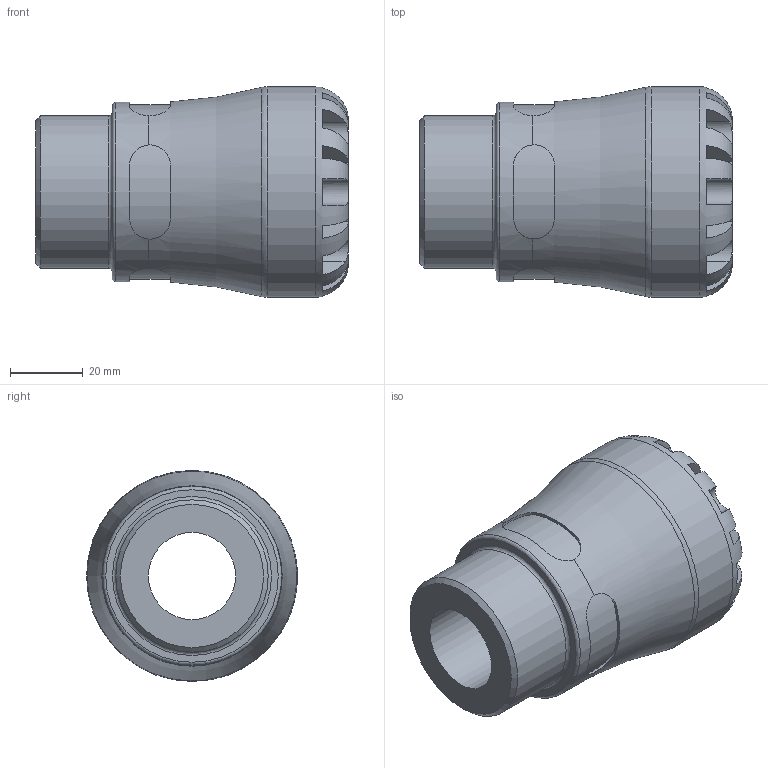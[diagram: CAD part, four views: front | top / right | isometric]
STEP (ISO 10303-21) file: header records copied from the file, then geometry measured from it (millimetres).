
FILE_DESCRIPTION(/* description */ ('PLASSON MALE ADAPTOR 32X1.1/4" SERIES 1'),/* implementation_level */ '2;1');
FILE_NAME(/* name */ 'C:\Dropbox\KIMPROJECTS-Inventor\99-16-3568-Processing\S1\1002\100200032013_190200032013.ipt.stp',/* time_stamp */ '2017-07-27T14:39:25+03:00',/* author */ ('KIM'),/* organization */ (''),/* preprocessor_version */ 'ST-DEVELOPER v15.6',/* originating_system */ 'Autodesk Inventor 2015',/* authorisation */ '');
FILE_SCHEMA (('AUTOMOTIVE_DESIGN { 1 0 10303 214 3 1 1 }'));
Length unit declared in the file: millimetre
Products named in the file (1): 100200032013_190200032013
Bounding box: 86 x 58 x 58 mm (x, y, z)
Volume: 112148.1 mm3; surface area: 26049.4 mm2
Topology: 1 solids, 1 shells, 100 faces, 257 edges, 161 vertices
Faces by surface type: plane 60, cylinder 33, torus 5, cone 2
Full cylindrical faces by diameter (mm): 24 x1, 32 x1, 41.91 x1, 49.3 x1, 58 x1
Entity records: 3770 total; most frequent: CARTESIAN_POINT 1451, ORIENTED_EDGE 484, DIRECTION 462, EDGE_CURVE 242, AXIS2_PLACEMENT_3D 191, VERTEX_POINT 158, EDGE_LOOP 116, FACE_OUTER_BOUND 100
